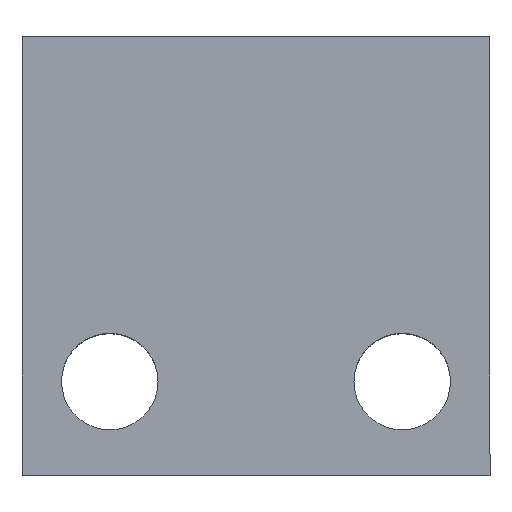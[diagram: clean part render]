
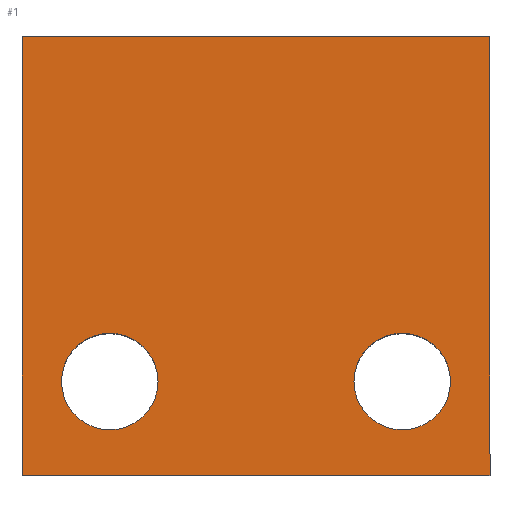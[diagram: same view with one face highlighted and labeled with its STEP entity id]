
A CAD part, top view. The second image highlights one B-rep face of the part: STEP entity #1.
In plain terms, the highlighted planar face has unit normal (0, 0, 1).
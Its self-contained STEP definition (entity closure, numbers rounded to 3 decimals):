
#1 = ADVANCED_FACE ( 'NONE', ( #320, #286, #17 ), #24, .T. ) ;
#11 = EDGE_CURVE ( 'NONE', #338, #144, #33, .T. ) ;
#14 = DIRECTION ( 'NONE',  ( 0., 0., -1. ) ) ;
#17 = FACE_OUTER_BOUND ( 'NONE', #470, .T. ) ;
#22 = EDGE_CURVE ( 'NONE', #222, #112, #409, .T. ) ;
#24 = PLANE ( 'NONE',  #364 ) ;
#26 = CIRCLE ( 'NONE', #577, 0.825 ) ;
#27 = CARTESIAN_POINT ( 'NONE',  ( 0., 0., 4. ) ) ;
#33 = LINE ( 'NONE', #357, #170 ) ;
#35 = CARTESIAN_POINT ( 'NONE',  ( -1.5, 1.6, 4. ) ) ;
#43 = DIRECTION ( 'NONE',  ( -1., 0., 0. ) ) ;
#72 = CARTESIAN_POINT ( 'NONE',  ( -8., 7.5, 4. ) ) ;
#88 = EDGE_CURVE ( 'NONE', #540, #267, #453, .T. ) ;
#96 = CARTESIAN_POINT ( 'NONE',  ( -0.675, 1.6, 4. ) ) ;
#107 = DIRECTION ( 'NONE',  ( 0., 0., -1. ) ) ;
#109 = CARTESIAN_POINT ( 'NONE',  ( -1.5, 1.6, 4. ) ) ;
#110 = CARTESIAN_POINT ( 'NONE',  ( -8., 0., 4. ) ) ;
#112 = VERTEX_POINT ( 'NONE', #96 ) ;
#144 = VERTEX_POINT ( 'NONE', #504 ) ;
#163 = CARTESIAN_POINT ( 'NONE',  ( -8., 7.5, 4. ) ) ;
#165 = AXIS2_PLACEMENT_3D ( 'NONE', #109, #107, #371 ) ;
#170 = VECTOR ( 'NONE', #322, 1000. ) ;
#181 = ORIENTED_EDGE ( 'NONE', *, *, #22, .T. ) ;
#194 = VERTEX_POINT ( 'NONE', #196 ) ;
#195 = CARTESIAN_POINT ( 'NONE',  ( 0., 0., 4. ) ) ;
#196 = CARTESIAN_POINT ( 'NONE',  ( -7.325, 1.6, 4. ) ) ;
#220 = DIRECTION ( 'NONE',  ( 0., 0., -1. ) ) ;
#221 = ORIENTED_EDGE ( 'NONE', *, *, #11, .T. ) ;
#222 = VERTEX_POINT ( 'NONE', #562 ) ;
#225 = ORIENTED_EDGE ( 'NONE', *, *, #539, .T. ) ;
#227 = CIRCLE ( 'NONE', #165, 0.825 ) ;
#237 = CIRCLE ( 'NONE', #468, 0.825 ) ;
#255 = ORIENTED_EDGE ( 'NONE', *, *, #88, .T. ) ;
#257 = VECTOR ( 'NONE', #271, 1000. ) ;
#261 = DIRECTION ( 'NONE',  ( -1., 0., 0. ) ) ;
#267 = VERTEX_POINT ( 'NONE', #522 ) ;
#271 = DIRECTION ( 'NONE',  ( 0., -1., 0. ) ) ;
#276 = EDGE_CURVE ( 'NONE', #194, #508, #26, .T. ) ;
#286 = FACE_BOUND ( 'NONE', #389, .T. ) ;
#296 = CARTESIAN_POINT ( 'NONE',  ( -6.5, 1.6, 4. ) ) ;
#301 = ORIENTED_EDGE ( 'NONE', *, *, #473, .T. ) ;
#306 = ORIENTED_EDGE ( 'NONE', *, *, #351, .T. ) ;
#320 = FACE_BOUND ( 'NONE', #435, .T. ) ;
#322 = DIRECTION ( 'NONE',  ( 0., 1., 0. ) ) ;
#338 = VERTEX_POINT ( 'NONE', #195 ) ;
#341 = DIRECTION ( 'NONE',  ( -1., 0., 0. ) ) ;
#351 = EDGE_CURVE ( 'NONE', #112, #222, #227, .T. ) ;
#354 = ORIENTED_EDGE ( 'NONE', *, *, #598, .T. ) ;
#357 = CARTESIAN_POINT ( 'NONE',  ( 0., 7.5, 4. ) ) ;
#361 = DIRECTION ( 'NONE',  ( 0., 0., -1. ) ) ;
#364 = AXIS2_PLACEMENT_3D ( 'NONE', #27, #434, #582 ) ;
#371 = DIRECTION ( 'NONE',  ( -1., 0., 0. ) ) ;
#375 = LINE ( 'NONE', #110, #565 ) ;
#389 = EDGE_LOOP ( 'NONE', ( #433, #225 ) ) ;
#392 = VECTOR ( 'NONE', #583, 1000. ) ;
#399 = AXIS2_PLACEMENT_3D ( 'NONE', #35, #361, #43 ) ;
#409 = CIRCLE ( 'NONE', #399, 0.825 ) ;
#433 = ORIENTED_EDGE ( 'NONE', *, *, #276, .T. ) ;
#434 = DIRECTION ( 'NONE',  ( 0., 0., 1. ) ) ;
#435 = EDGE_LOOP ( 'NONE', ( #181, #306 ) ) ;
#453 = LINE ( 'NONE', #163, #257 ) ;
#468 = AXIS2_PLACEMENT_3D ( 'NONE', #536, #220, #261 ) ;
#470 = EDGE_LOOP ( 'NONE', ( #255, #301, #221, #354 ) ) ;
#473 = EDGE_CURVE ( 'NONE', #267, #338, #375, .T. ) ;
#500 = LINE ( 'NONE', #538, #392 ) ;
#504 = CARTESIAN_POINT ( 'NONE',  ( 0., 7.5, 4. ) ) ;
#508 = VERTEX_POINT ( 'NONE', #524 ) ;
#522 = CARTESIAN_POINT ( 'NONE',  ( -8., 0., 4. ) ) ;
#524 = CARTESIAN_POINT ( 'NONE',  ( -5.675, 1.6, 4. ) ) ;
#536 = CARTESIAN_POINT ( 'NONE',  ( -6.5, 1.6, 4. ) ) ;
#538 = CARTESIAN_POINT ( 'NONE',  ( -8., 7.5, 4. ) ) ;
#539 = EDGE_CURVE ( 'NONE', #508, #194, #237, .T. ) ;
#540 = VERTEX_POINT ( 'NONE', #72 ) ;
#562 = CARTESIAN_POINT ( 'NONE',  ( -2.325, 1.6, 4. ) ) ;
#565 = VECTOR ( 'NONE', #568, 1000. ) ;
#568 = DIRECTION ( 'NONE',  ( 1., 0., 0. ) ) ;
#577 = AXIS2_PLACEMENT_3D ( 'NONE', #296, #14, #341 ) ;
#582 = DIRECTION ( 'NONE',  ( 1., 0., 0. ) ) ;
#583 = DIRECTION ( 'NONE',  ( -1., 0., 0. ) ) ;
#598 = EDGE_CURVE ( 'NONE', #144, #540, #500, .T. ) ;
